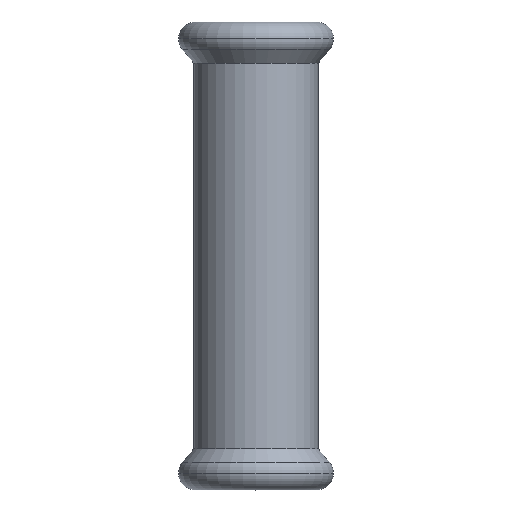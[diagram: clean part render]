
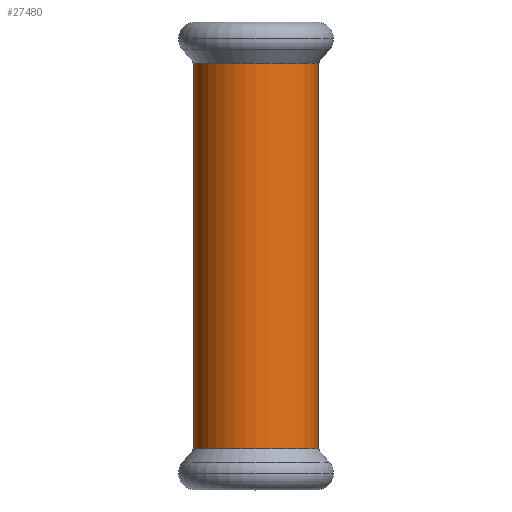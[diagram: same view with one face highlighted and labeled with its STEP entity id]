
A CAD part, top view. The second image highlights one B-rep face of the part: STEP entity #27480.
In plain terms, the highlighted cylindrical face has radius 10.625 mm (diameter 21.25 mm), a partial arc.
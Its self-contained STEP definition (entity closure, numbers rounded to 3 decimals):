
#800=CARTESIAN_POINT('',(-192.351,58.105,0.));
#810=VERTEX_POINT('',#800);
#990=CARTESIAN_POINT('',(-213.601,58.105,
0.));
#1000=VERTEX_POINT('',#990);
#1030=CARTESIAN_POINT('',(-202.976,58.105,0.));
#1040=DIRECTION('',(0.,1.,0.));
#1050=DIRECTION('',(-1.,0.,0.));
#1060=AXIS2_PLACEMENT_3D('',#1030,#1040,#1050);
#1070=CIRCLE('',#1060,10.625);
#1130=CARTESIAN_POINT('',(-202.976,51.34,0.));
#1140=DIRECTION('',(0.,-1.,0.));
#1150=DIRECTION('',(-1.,0.,0.));
#1160=AXIS2_PLACEMENT_3D('',#1130,#1140,#1150);
#1170=CYLINDRICAL_SURFACE('',#1160,10.625);
#1180=CARTESIAN_POINT('',(-192.351,51.34,
0.));
#1190=DIRECTION('',(0.,-1.,0.));
#1200=VECTOR('',#1190,1.);
#1210=LINE('',#1180,#1200);
#1220=CARTESIAN_POINT('',(-192.351,-7.864,
0.));
#1230=VERTEX_POINT('',#1220);
#1240=EDGE_CURVE('',#810,#1230,#1210,.T.);
#1270=CARTESIAN_POINT('',(-213.601,51.34,0.));
#1280=DIRECTION('',(0.,-1.,0.));
#1290=VECTOR('',#1280,1.);
#1300=LINE('',#1270,#1290);
#1310=CARTESIAN_POINT('',(-213.601,-7.864,0.));
#1320=VERTEX_POINT('',#1310);
#1330=EDGE_CURVE('',#1000,#1320,#1300,.T.);
#1350=CARTESIAN_POINT('',(-202.976,-7.864,0.));
#1360=DIRECTION('',(0.,-1.,0.));
#1370=DIRECTION('',(1.,0.,0.));
#1380=AXIS2_PLACEMENT_3D('',#1350,#1360,#1370);
#1390=CIRCLE('',#1380,10.625);
#26610=EDGE_CURVE('',#1000,#810,#1070,.T.);
#27190=EDGE_CURVE('',#1230,#1320,#1390,.T.);
#27420=ORIENTED_EDGE('',*,*,#26610,.F.);
#27430=ORIENTED_EDGE('',*,*,#1240,.F.);
#27440=ORIENTED_EDGE('',*,*,#27190,.F.);
#27450=ORIENTED_EDGE('',*,*,#1330,.T.);
#27460=EDGE_LOOP('',(#27450,#27440,#27430,#27420));
#27470=FACE_OUTER_BOUND('',#27460,.T.);
#27480=ADVANCED_FACE('',(#27470),#1170,.T.);
